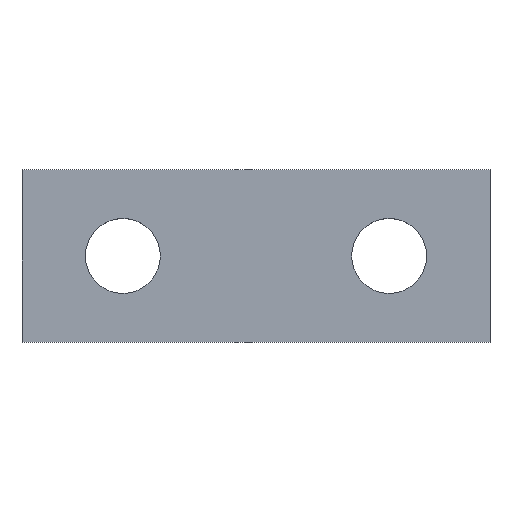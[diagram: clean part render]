
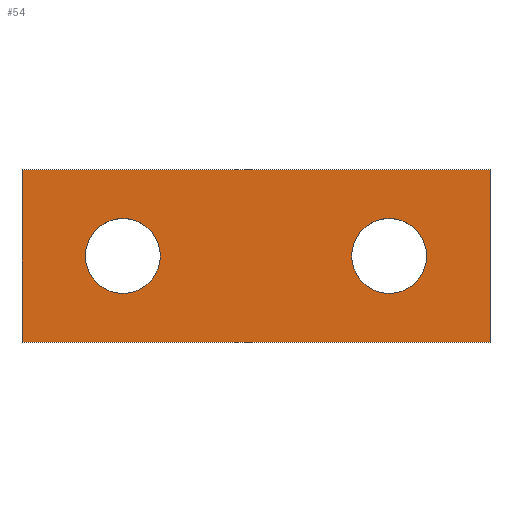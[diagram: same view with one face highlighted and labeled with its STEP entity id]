
A CAD part, top view. The second image highlights one B-rep face of the part: STEP entity #54.
In plain terms, the highlighted planar face has unit normal (0, 0, 1).
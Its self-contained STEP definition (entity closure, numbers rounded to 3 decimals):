
#54=ADVANCED_FACE('',(#73,#74,#75),#76,.T.);
#73=FACE_OUTER_BOUND('',#97,.T.);
#74=FACE_BOUND('',#98,.T.);
#75=FACE_BOUND('',#99,.T.);
#76=PLANE('',#100);
#97=EDGE_LOOP('',(#161,#162,#163,#164));
#98=EDGE_LOOP('',(#165,#166));
#99=EDGE_LOOP('',(#167,#168));
#100=AXIS2_PLACEMENT_3D('',#169,#170,#171);
#161=ORIENTED_EDGE('',*,*,#185,.T.);
#162=ORIENTED_EDGE('',*,*,#189,.T.);
#163=ORIENTED_EDGE('',*,*,#192,.T.);
#164=ORIENTED_EDGE('',*,*,#194,.T.);
#165=ORIENTED_EDGE('',*,*,#201,.F.);
#166=ORIENTED_EDGE('',*,*,#205,.F.);
#167=ORIENTED_EDGE('',*,*,#195,.F.);
#168=ORIENTED_EDGE('',*,*,#199,.F.);
#169=CARTESIAN_POINT('',(0.0,0.0,5.0));
#170=DIRECTION('',(0.0,0.0,1.0));
#171=DIRECTION('',(1.0,-0.0,0.0));
#185=EDGE_CURVE('',#212,#210,#213,.T.);
#189=EDGE_CURVE('',#210,#217,#219,.T.);
#192=EDGE_CURVE('',#217,#222,#224,.T.);
#194=EDGE_CURVE('',#222,#212,#226,.T.);
#195=EDGE_CURVE('',#227,#228,#229,.T.);
#199=EDGE_CURVE('',#228,#227,#235,.T.);
#201=EDGE_CURVE('',#237,#238,#239,.T.);
#205=EDGE_CURVE('',#238,#237,#245,.T.);
#210=VERTEX_POINT('',#251);
#212=VERTEX_POINT('',#254);
#213=LINE('',#255,#256);
#217=VERTEX_POINT('',#262);
#219=LINE('',#265,#266);
#222=VERTEX_POINT('',#270);
#224=LINE('',#273,#274);
#226=LINE('',#277,#278);
#227=VERTEX_POINT('',#279);
#228=VERTEX_POINT('',#280);
#229=CIRCLE('',#281,6.5);
#235=CIRCLE('',#289,6.5);
#237=VERTEX_POINT('',#291);
#238=VERTEX_POINT('',#292);
#239=CIRCLE('',#293,6.5);
#245=CIRCLE('',#301,6.5);
#251=CARTESIAN_POINT('',(0.0,0.0,5.0));
#254=CARTESIAN_POINT('',(0.0,30.0,5.0));
#255=CARTESIAN_POINT('',(0.0,30.0,5.0));
#256=VECTOR('',#305,1.0);
#262=CARTESIAN_POINT('',(81.2,0.0,5.0));
#265=CARTESIAN_POINT('',(0.0,0.0,5.0));
#266=VECTOR('',#309,1.0);
#270=CARTESIAN_POINT('',(81.2,30.0,5.0));
#273=CARTESIAN_POINT('',(81.2,0.0,5.0));
#274=VECTOR('',#312,1.0);
#277=CARTESIAN_POINT('',(81.2,30.0,5.0));
#278=VECTOR('',#314,1.0);
#279=CARTESIAN_POINT('',(57.2,15.0,5.0));
#280=CARTESIAN_POINT('',(70.2,15.0,5.0));
#281=AXIS2_PLACEMENT_3D('',#315,#316,#317);
#289=AXIS2_PLACEMENT_3D('',#323,#324,#325);
#291=CARTESIAN_POINT('',(11.0,15.0,5.0));
#292=CARTESIAN_POINT('',(24.0,15.0,5.0));
#293=AXIS2_PLACEMENT_3D('',#329,#330,#331);
#301=AXIS2_PLACEMENT_3D('',#337,#338,#339);
#305=DIRECTION('',(0.0,-1.0,0.0));
#309=DIRECTION('',(1.0,0.0,0.0));
#312=DIRECTION('',(0.0,1.0,0.0));
#314=DIRECTION('',(-1.0,0.0,0.0));
#315=CARTESIAN_POINT('',(63.7,15.0,5.0));
#316=DIRECTION('',(0.0,0.0,1.0));
#317=DIRECTION('',(1.0,0.0,0.0));
#323=CARTESIAN_POINT('',(63.7,15.0,5.0));
#324=DIRECTION('',(0.0,0.0,1.0));
#325=DIRECTION('',(1.0,0.0,0.0));
#329=CARTESIAN_POINT('',(17.5,15.0,5.0));
#330=DIRECTION('',(0.0,0.0,1.0));
#331=DIRECTION('',(1.0,0.0,0.0));
#337=CARTESIAN_POINT('',(17.5,15.0,5.0));
#338=DIRECTION('',(0.0,0.0,1.0));
#339=DIRECTION('',(1.0,0.0,0.0));
